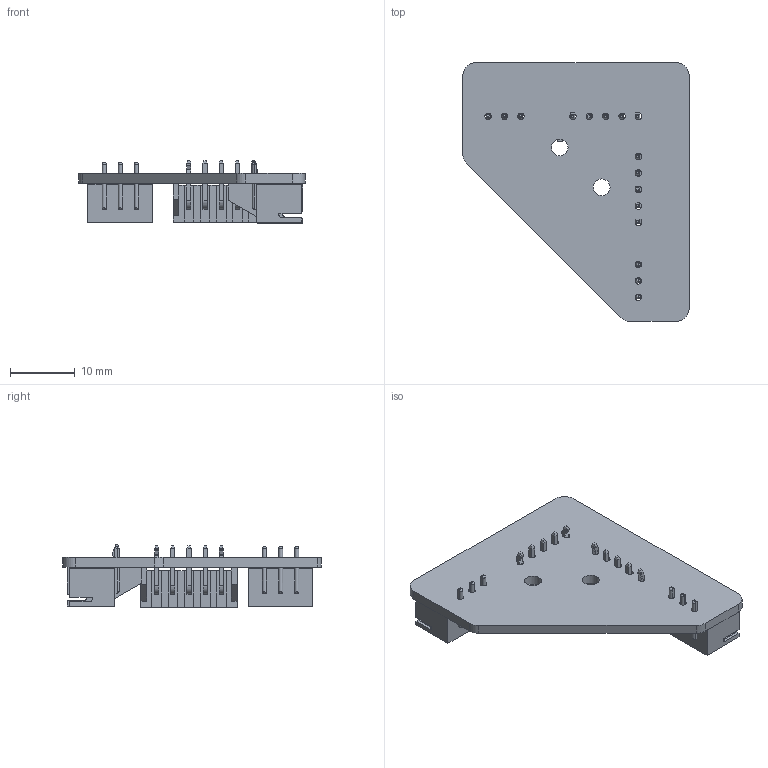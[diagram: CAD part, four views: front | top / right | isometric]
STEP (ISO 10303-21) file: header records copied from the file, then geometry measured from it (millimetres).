
FILE_DESCRIPTION(('KiCad electronic assembly'),'2;1');
FILE_NAME('JST BREAKOUT BOARD.step','2026-06-05T11:44:21',('Pcbnew'),( 'Kicad'),'Open CASCADE STEP processor 7.9','KiCad to STEP converter' ,'Unknown');
FILE_SCHEMA(('AUTOMOTIVE_DESIGN { 1 0 10303 214 1 1 1 1 }'));
Length unit declared in the file: millimetre
Products named in the file (7): JST BREAKOUT BOARD 1; JST 5 pin - S5B-XH-A-1-LF--SN---3DModel-STEP-269445; SxB-XH-Axxxxx_5; pin^SxB-XH-A-1(LF)(SN)_bent; pin^SxB-XH-A-1(LF)(SN); User Library-JST-XH-2_5mm-3; JST BREAKOUT BOARD_PCB
Assembly tree (11 placements, depth 3):
  JST BREAKOUT BOARD 1
    JST 5 pin - S5B-XH-A-1-LF--SN---3DModel-STEP-269445  x2
      SxB-XH-Axxxxx_5
      pin^SxB-XH-A-1(LF)(SN)_bent
      pin^SxB-XH-A-1(LF)(SN)
    User Library-JST-XH-2_5mm-3  x2
    JST BREAKOUT BOARD_PCB
Bounding box: 35 x 40 x 9.7 mm (x, y, z)
Volume: 2563.4 mm3; surface area: 5469 mm2
Topology: 21 solids, 21 shells, 664 faces, 1572 edges, 944 vertices
Faces by surface type: plane 509, cylinder 137, bspline 18
Full cylindrical faces by diameter (mm): 1 x16, 2.6 x2
Entity records: 7979 total; most frequent: CARTESIAN_POINT 1508, ORIENTED_EDGE 1288, DIRECTION 1271, EDGE_CURVE 644, LINE 505, VECTOR 505, VERTEX_POINT 404, AXIS2_PLACEMENT_3D 383
